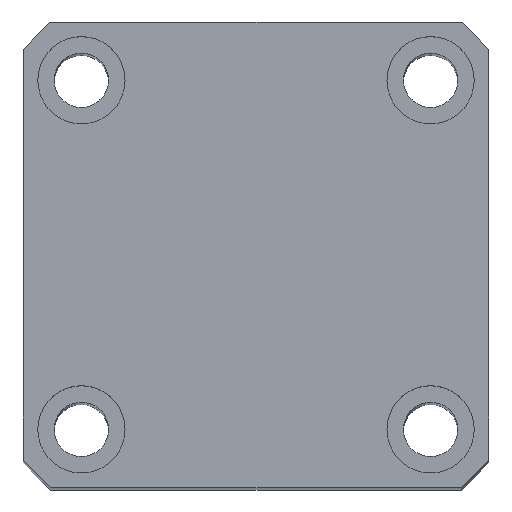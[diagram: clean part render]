
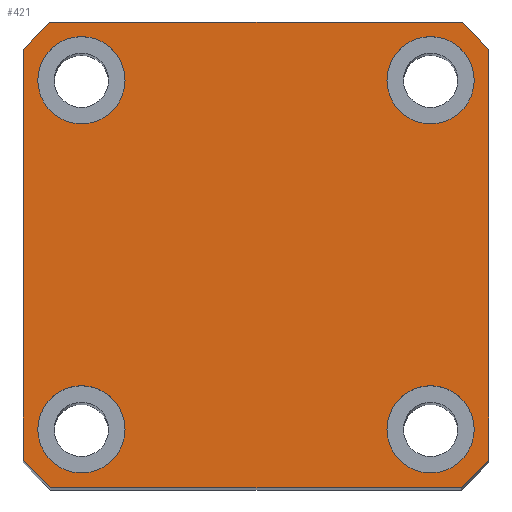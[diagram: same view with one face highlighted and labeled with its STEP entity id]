
A CAD part, top view. The second image highlights one B-rep face of the part: STEP entity #421.
In plain terms, the highlighted planar face has unit normal (0, 0, 1) as drawn and (1, 0, 0) by its records, which use the part's own axes.
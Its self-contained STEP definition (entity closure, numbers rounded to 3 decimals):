
#5 = DIRECTION ( 'NONE',  ( 1., 0., 0. ) ) ;
#258 = AXIS2_PLACEMENT_3D ( 'NONE', #1448, #5807, #2057 ) ;
#279 = CIRCLE ( 'NONE', #3808, 4.5 ) ;
#421 = ADVANCED_FACE ( 'NONE', ( #4320, #4122, #7403, #2459, #820 ), #1421, .T. ) ;
#425 = DIRECTION ( 'NONE',  ( 1., 0., 0. ) ) ;
#499 = VECTOR ( 'NONE', #5089, 1000. ) ;
#618 = DIRECTION ( 'NONE',  ( 0., 0., -1. ) ) ;
#634 = ORIENTED_EDGE ( 'NONE', *, *, #7032, .F. ) ;
#684 = CIRCLE ( 'NONE', #5589, 4.5 ) ;
#720 = VERTEX_POINT ( 'NONE', #6456 ) ;
#743 = VERTEX_POINT ( 'NONE', #6428 ) ;
#820 = FACE_OUTER_BOUND ( 'NONE', #7924, .T. ) ;
#890 = LINE ( 'NONE', #2038, #5661 ) ;
#1053 = VERTEX_POINT ( 'NONE', #6706 ) ;
#1136 = VERTEX_POINT ( 'NONE', #2144 ) ;
#1138 = CARTESIAN_POINT ( 'NONE',  ( 145., 0., 0. ) ) ;
#1142 = CIRCLE ( 'NONE', #258, 32. ) ;
#1149 = EDGE_CURVE ( 'NONE', #3905, #6591, #2165, .T. ) ;
#1201 = VERTEX_POINT ( 'NONE', #2462 ) ;
#1273 = DIRECTION ( 'NONE',  ( 0., 0., -1. ) ) ;
#1282 = LINE ( 'NONE', #1819, #7699 ) ;
#1301 = DIRECTION ( 'NONE',  ( 1., 0., 0. ) ) ;
#1421 = PLANE ( 'NONE',  #5214 ) ;
#1448 = CARTESIAN_POINT ( 'NONE',  ( 145., 0., 0. ) ) ;
#1542 = CARTESIAN_POINT ( 'NONE',  ( 145., 0., 0. ) ) ;
#1701 = CARTESIAN_POINT ( 'NONE',  ( 145., 0., 0. ) ) ;
#1715 = VERTEX_POINT ( 'NONE', #2383 ) ;
#1759 = DIRECTION ( 'NONE',  ( 0., 0., -1. ) ) ;
#1769 = CARTESIAN_POINT ( 'NONE',  ( 145., -21.166, -24. ) ) ;
#1819 = CARTESIAN_POINT ( 'NONE',  ( 145., -24., 24. ) ) ;
#1901 = ORIENTED_EDGE ( 'NONE', *, *, #3699, .F. ) ;
#1938 = DIRECTION ( 'NONE',  ( 1., 0., 0. ) ) ;
#2038 = CARTESIAN_POINT ( 'NONE',  ( 145., 24., 24. ) ) ;
#2057 = DIRECTION ( 'NONE',  ( 0., 0., -1. ) ) ;
#2076 = VERTEX_POINT ( 'NONE', #3194 ) ;
#2093 = AXIS2_PLACEMENT_3D ( 'NONE', #5470, #5123, #3147 ) ;
#2120 = CARTESIAN_POINT ( 'NONE',  ( 145., 24., 21.166 ) ) ;
#2144 = CARTESIAN_POINT ( 'NONE',  ( 145., 24., -21.166 ) ) ;
#2165 = LINE ( 'NONE', #6895, #499 ) ;
#2323 = DIRECTION ( 'NONE',  ( 0., 0., -1. ) ) ;
#2369 = VERTEX_POINT ( 'NONE', #2965 ) ;
#2383 = CARTESIAN_POINT ( 'NONE',  ( 145., -18., 22.5 ) ) ;
#2389 = DIRECTION ( 'NONE',  ( 1., 0., 0. ) ) ;
#2406 = DIRECTION ( 'NONE',  ( 1., 0., 0. ) ) ;
#2447 = EDGE_CURVE ( 'NONE', #2076, #720, #7878, .T. ) ;
#2456 = CARTESIAN_POINT ( 'NONE',  ( 145., -24., 21.166 ) ) ;
#2459 = FACE_BOUND ( 'NONE', #5318, .T. ) ;
#2462 = CARTESIAN_POINT ( 'NONE',  ( 145., -21.166, 24. ) ) ;
#2472 = CARTESIAN_POINT ( 'NONE',  ( 145., -18., 18. ) ) ;
#2593 = ORIENTED_EDGE ( 'NONE', *, *, #3303, .F. ) ;
#2637 = CIRCLE ( 'NONE', #7551, 4.5 ) ;
#2806 = ORIENTED_EDGE ( 'NONE', *, *, #7434, .F. ) ;
#2812 = ORIENTED_EDGE ( 'NONE', *, *, #1149, .T. ) ;
#2865 = CIRCLE ( 'NONE', #4266, 4.5 ) ;
#2965 = CARTESIAN_POINT ( 'NONE',  ( 145., 18., -22.5 ) ) ;
#3005 = ORIENTED_EDGE ( 'NONE', *, *, #5531, .T. ) ;
#3118 = DIRECTION ( 'NONE',  ( 0., 0., -1. ) ) ;
#3147 = DIRECTION ( 'NONE',  ( 0., 0., -1. ) ) ;
#3187 = ORIENTED_EDGE ( 'NONE', *, *, #5817, .F. ) ;
#3194 = CARTESIAN_POINT ( 'NONE',  ( 145., 18., 13.5 ) ) ;
#3201 = EDGE_CURVE ( 'NONE', #1201, #7358, #3696, .T. ) ;
#3303 = EDGE_CURVE ( 'NONE', #720, #2076, #4966, .T. ) ;
#3338 = CARTESIAN_POINT ( 'NONE',  ( 145., 18., -18. ) ) ;
#3382 = CARTESIAN_POINT ( 'NONE',  ( 145., 21.166, -24. ) ) ;
#3386 = ORIENTED_EDGE ( 'NONE', *, *, #5804, .F. ) ;
#3390 = CARTESIAN_POINT ( 'NONE',  ( 145., 24., 24. ) ) ;
#3413 = AXIS2_PLACEMENT_3D ( 'NONE', #6124, #2389, #6745 ) ;
#3477 = EDGE_LOOP ( 'NONE', ( #3187, #3386 ) ) ;
#3522 = ORIENTED_EDGE ( 'NONE', *, *, #4809, .T. ) ;
#3642 = EDGE_LOOP ( 'NONE', ( #2806, #6286 ) ) ;
#3696 = CIRCLE ( 'NONE', #4395, 32. ) ;
#3699 = EDGE_CURVE ( 'NONE', #2369, #4473, #279, .T. ) ;
#3708 = ORIENTED_EDGE ( 'NONE', *, *, #3201, .T. ) ;
#3748 = CARTESIAN_POINT ( 'NONE',  ( 145., -18., -18. ) ) ;
#3808 = AXIS2_PLACEMENT_3D ( 'NONE', #4171, #425, #4797 ) ;
#3840 = AXIS2_PLACEMENT_3D ( 'NONE', #2472, #6824, #3118 ) ;
#3860 = EDGE_CURVE ( 'NONE', #4832, #743, #4678, .T. ) ;
#3876 = CARTESIAN_POINT ( 'NONE',  ( 145., -18., 13.5 ) ) ;
#3905 = VERTEX_POINT ( 'NONE', #1769 ) ;
#3945 = DIRECTION ( 'NONE',  ( 0., 0., -1. ) ) ;
#3962 = EDGE_CURVE ( 'NONE', #6307, #1053, #2637, .T. ) ;
#4057 = ORIENTED_EDGE ( 'NONE', *, *, #2447, .F. ) ;
#4083 = VECTOR ( 'NONE', #7720, 1000. ) ;
#4122 = FACE_BOUND ( 'NONE', #3477, .T. ) ;
#4171 = CARTESIAN_POINT ( 'NONE',  ( 145., 18., -18. ) ) ;
#4266 = AXIS2_PLACEMENT_3D ( 'NONE', #8063, #4355, #618 ) ;
#4320 = FACE_BOUND ( 'NONE', #3642, .T. ) ;
#4355 = DIRECTION ( 'NONE',  ( 1., 0., 0. ) ) ;
#4387 = DIRECTION ( 'NONE',  ( 0., 0., -1. ) ) ;
#4395 = AXIS2_PLACEMENT_3D ( 'NONE', #1138, #5492, #1759 ) ;
#4445 = EDGE_LOOP ( 'NONE', ( #1901, #634 ) ) ;
#4473 = VERTEX_POINT ( 'NONE', #6321 ) ;
#4678 = CIRCLE ( 'NONE', #3413, 32. ) ;
#4797 = DIRECTION ( 'NONE',  ( 0., 0., -1. ) ) ;
#4809 = EDGE_CURVE ( 'NONE', #743, #1201, #5748, .T. ) ;
#4832 = VERTEX_POINT ( 'NONE', #2120 ) ;
#4966 = CIRCLE ( 'NONE', #5236, 4.5 ) ;
#5089 = DIRECTION ( 'NONE',  ( 0., 1., 0. ) ) ;
#5123 = DIRECTION ( 'NONE',  ( 1., 0., 0. ) ) ;
#5214 = AXIS2_PLACEMENT_3D ( 'NONE', #1542, #1301, #1273 ) ;
#5236 = AXIS2_PLACEMENT_3D ( 'NONE', #6140, #2406, #6756 ) ;
#5318 = EDGE_LOOP ( 'NONE', ( #4057, #2593 ) ) ;
#5470 = CARTESIAN_POINT ( 'NONE',  ( 145., 18., 18. ) ) ;
#5492 = DIRECTION ( 'NONE',  ( 1., 0., 0. ) ) ;
#5531 = EDGE_CURVE ( 'NONE', #6591, #1136, #7298, .T. ) ;
#5567 = ORIENTED_EDGE ( 'NONE', *, *, #6760, .T. ) ;
#5589 = AXIS2_PLACEMENT_3D ( 'NONE', #3338, #7661, #3945 ) ;
#5661 = VECTOR ( 'NONE', #5782, 1000. ) ;
#5674 = CARTESIAN_POINT ( 'NONE',  ( 145., -18., -18. ) ) ;
#5676 = AXIS2_PLACEMENT_3D ( 'NONE', #1701, #6052, #2323 ) ;
#5748 = LINE ( 'NONE', #3390, #4083 ) ;
#5782 = DIRECTION ( 'NONE',  ( 0., 0., 1. ) ) ;
#5804 = EDGE_CURVE ( 'NONE', #1715, #7889, #7804, .T. ) ;
#5807 = DIRECTION ( 'NONE',  ( 1., 0., 0. ) ) ;
#5817 = EDGE_CURVE ( 'NONE', #7889, #1715, #2865, .T. ) ;
#6052 = DIRECTION ( 'NONE',  ( 1., 0., 0. ) ) ;
#6124 = CARTESIAN_POINT ( 'NONE',  ( 145., 0., 0. ) ) ;
#6140 = CARTESIAN_POINT ( 'NONE',  ( 145., 18., 18. ) ) ;
#6171 = DIRECTION ( 'NONE',  ( 0., 0., -1. ) ) ;
#6192 = CARTESIAN_POINT ( 'NONE',  ( 145., -24., -21.166 ) ) ;
#6286 = ORIENTED_EDGE ( 'NONE', *, *, #3962, .F. ) ;
#6292 = DIRECTION ( 'NONE',  ( 0., 0., -1. ) ) ;
#6307 = VERTEX_POINT ( 'NONE', #6757 ) ;
#6321 = CARTESIAN_POINT ( 'NONE',  ( 145., 18., -13.5 ) ) ;
#6370 = VERTEX_POINT ( 'NONE', #6192 ) ;
#6428 = CARTESIAN_POINT ( 'NONE',  ( 145., 21.166, 24. ) ) ;
#6446 = ORIENTED_EDGE ( 'NONE', *, *, #3860, .T. ) ;
#6456 = CARTESIAN_POINT ( 'NONE',  ( 145., 18., 22.5 ) ) ;
#6591 = VERTEX_POINT ( 'NONE', #3382 ) ;
#6706 = CARTESIAN_POINT ( 'NONE',  ( 145., -18., -22.5 ) ) ;
#6745 = DIRECTION ( 'NONE',  ( 0., 0., -1. ) ) ;
#6756 = DIRECTION ( 'NONE',  ( 0., 0., -1. ) ) ;
#6757 = CARTESIAN_POINT ( 'NONE',  ( 145., -18., -13.5 ) ) ;
#6760 = EDGE_CURVE ( 'NONE', #7358, #6370, #1282, .T. ) ;
#6822 = AXIS2_PLACEMENT_3D ( 'NONE', #5674, #1938, #6292 ) ;
#6824 = DIRECTION ( 'NONE',  ( 1., 0., 0. ) ) ;
#6895 = CARTESIAN_POINT ( 'NONE',  ( 145., 24., -24. ) ) ;
#6921 = ORIENTED_EDGE ( 'NONE', *, *, #7907, .T. ) ;
#6984 = EDGE_CURVE ( 'NONE', #1136, #4832, #890, .T. ) ;
#7032 = EDGE_CURVE ( 'NONE', #4473, #2369, #684, .T. ) ;
#7298 = CIRCLE ( 'NONE', #5676, 32. ) ;
#7358 = VERTEX_POINT ( 'NONE', #2456 ) ;
#7403 = FACE_BOUND ( 'NONE', #4445, .T. ) ;
#7434 = EDGE_CURVE ( 'NONE', #1053, #6307, #7583, .T. ) ;
#7551 = AXIS2_PLACEMENT_3D ( 'NONE', #3748, #5, #4387 ) ;
#7583 = CIRCLE ( 'NONE', #6822, 4.5 ) ;
#7661 = DIRECTION ( 'NONE',  ( 1., 0., 0. ) ) ;
#7699 = VECTOR ( 'NONE', #6171, 1000. ) ;
#7720 = DIRECTION ( 'NONE',  ( 0., -1., 0. ) ) ;
#7804 = CIRCLE ( 'NONE', #3840, 4.5 ) ;
#7878 = CIRCLE ( 'NONE', #2093, 4.5 ) ;
#7889 = VERTEX_POINT ( 'NONE', #3876 ) ;
#7907 = EDGE_CURVE ( 'NONE', #6370, #3905, #1142, .T. ) ;
#7924 = EDGE_LOOP ( 'NONE', ( #2812, #3005, #7930, #6446, #3522, #3708, #5567, #6921 ) ) ;
#7930 = ORIENTED_EDGE ( 'NONE', *, *, #6984, .T. ) ;
#8063 = CARTESIAN_POINT ( 'NONE',  ( 145., -18., 18. ) ) ;
